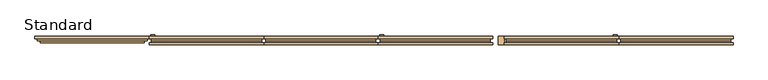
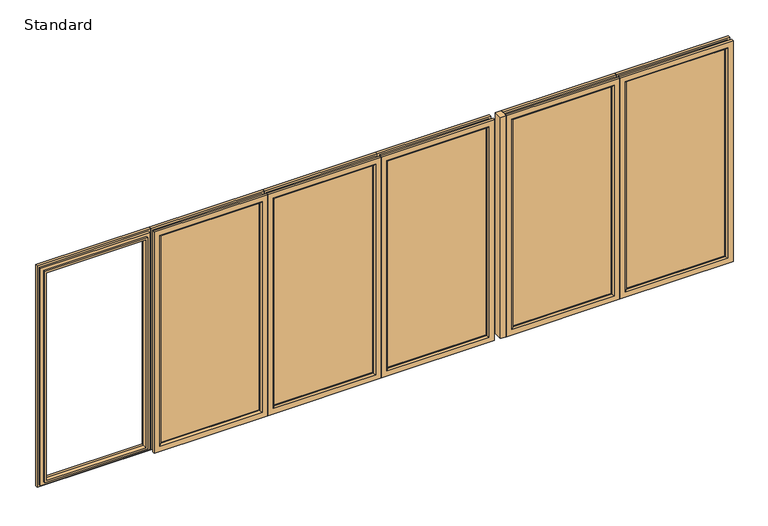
"""IFC4 building model written with IfcOpenShell, lengths in millimetres: door geometry, SMARTS_Visofold1000 : Standard."""

from ifc_helpers import new_model, si_unit, point, frame, frame_2d, origin, origin_with_axes, place, context, project, spatial, polyline, circle_curve, ellipse_curve, trimmed, segment, composite_curve, outline, extrude, faceted_brep, source, transform, mapped, element, save
from ifc_brep_helpers import plane_surface, cylinder_surface, advanced_brep


def standard_0c0f085e(model_context):
    return source(origin(), model_context, "Body", "SolidModel", [
        extrude(outline(composite_curve([segment(polyline([(1228.0996413, 1944.0), (1040.0996413, 1944.0)]), True, "CONTINUOUS"), segment(trimmed(circle_curve(frame_2d((1040.0996413, 1960.0)), 16.0), [point((1040.0996413, 1944.0))], [point((1040.0996413, 1976.0))], False, "CARTESIAN"), True, "CONTINUOUS"), segment(polyline([(1040.0996413, 1976.0), (1228.0996413, 1976.0)]), True, "CONTINUOUS"), segment(trimmed(circle_curve(frame_2d((1228.0996413, 1960.0)), 16.0), [point((1228.0996413, 1976.0))], [point((1228.0996413, 1944.0))], False, "CARTESIAN"), True, "CONTINUOUS")], self_intersect=False)), frame((0.0, 75.0, 0.0), z_axis=(0.0, 1.0, 0.0), x_axis=(0.0, 0.0, 1.0)), (0.0, 0.0, 1.0), 10.0),
        extrude(outline(polyline([(45.0, 1945.0), (1955.0, 1945.0), (1955.0, 1065.0), (45.0, 1065.0), (45.0, 1945.0)]), holes=[polyline([(1939.5, 1929.5), (60.5, 1929.5), (60.5, 1080.5), (1939.5, 1080.5), (1939.5, 1929.5)])]), frame((0.0, 17.4, 0.0), z_axis=(0.0, 1.0, 0.0), x_axis=(0.0, 0.0, 1.0)), (0.0, 0.0, 1.0), 35.0),
        faceted_brep([(1990.0, 74.4, 0.0), (1990.0, 74.4, 2000.0), (1990.0, 52.4, 2000.0), (1990.0, 52.4, 0.0), (1929.5, 52.4, 60.5), (1929.5, 52.4, 1939.5), (1929.5, 74.4, 1939.5), (1929.5, 74.4, 60.5), (1020.0, 74.4, 2000.0), (1020.0, 52.4, 2000.0), (1080.5, 52.4, 1939.5), (1080.5, 74.4, 1939.5), (1020.0, 74.4, 0.0), (1020.0, 52.4, 0.0), (1080.5, 52.4, 60.5), (1080.5, 74.4, 60.5), (1972.1308519, 34.8, 17.8691481), (1972.1308519, 34.8, 1982.1308519), (1037.8691481, 34.8, 1982.1308519), (1037.8691481, 34.8, 17.8691481), (1945.0, 34.8, 1955.0), (1945.0, 34.8, 45.0), (1065.0, 34.8, 45.0), (1065.0, 34.8, 1955.0), (1972.1308519, 52.4, 17.8691481), (1972.1308519, 52.4, 1982.1308519), (1945.0, 52.4, 1955.0), (1945.0, 52.4, 45.0), (1037.8691481, 52.4, 1982.1308519), (1065.0, 52.4, 1955.0), (1037.8691481, 52.4, 17.8691481), (1065.0, 52.4, 45.0)], [[[0, 1, 2, 3]], [[4, 5, 6, 7]], [[1, 8, 9, 2]], [[5, 10, 11, 6]], [[8, 12, 13, 9]], [[10, 14, 15, 11]], [[12, 0, 3, 13]], [[1, 0, 12, 8], [7, 6, 11, 15]], [[14, 4, 7, 15]], [[16, 17, 18, 19], [20, 21, 22, 23]], [[24, 25, 17, 16]], [[21, 20, 26, 27]], [[25, 28, 18, 17]], [[20, 23, 29, 26]], [[28, 30, 19, 18]], [[23, 22, 31, 29]], [[30, 24, 16, 19]], [[3, 2, 9, 13], [25, 24, 30, 28]], [[27, 26, 29, 31], [5, 4, 14, 10]], [[22, 21, 27, 31]]]),
        advanced_brep(
        [(1929.5, 13.3, 60.5), (1929.5, 13.3, 1939.5), (1929.5, 17.4, 1939.5), (1929.5, 17.4, 60.5), (1990.0, 17.4, 0.0), (1990.0, 17.4, 2000.0), (1990.0, 0.0, 2000.0), (1990.0, 0.0, 0.0), (1080.5, 13.3, 1939.5), (1080.5, 17.4, 1939.5), (1020.0, 17.4, 2000.0), (1020.0, 0.0, 2000.0), (1080.5, 13.3, 60.5), (1080.5, 17.4, 60.5), (1020.0, 17.4, 0.0), (1020.0, 0.0, 0.0), (1942.8, 0.0, 1952.8), (1942.8, 0.0, 47.2), (1067.2, 0.0, 47.2), (1067.2, 0.0, 1952.8), (1972.1308519, 34.8, 17.8691481), (1972.1308519, 34.8, 1982.1308519), (1972.1308519, 17.4, 1982.1308519), (1972.1308519, 17.4, 17.8691481), (1037.8691481, 34.8, 1982.1308519), (1037.8691481, 17.4, 1982.1308519), (1037.8691481, 34.8, 17.8691481), (1037.8691481, 17.4, 17.8691481), (1945.0, 17.4, 45.0), (1945.0, 17.4, 1955.0), (1945.0, 34.8, 1955.0), (1945.0, 34.8, 45.0), (1065.0, 17.4, 1955.0), (1065.0, 34.8, 1955.0), (1065.0, 17.4, 45.0), (1065.0, 34.8, 45.0)],
        [
            (0, 1),
            (1, 2),
            (2, 3),
            (3, 0),
            (4, 5),
            (5, 6),
            (6, 7),
            (7, 4),
            (1, 8),
            (8, 9),
            (9, 2),
            (5, 10),
            (10, 11),
            (11, 6),
            (8, 12),
            (12, 13),
            (13, 9),
            (10, 14),
            (14, 15),
            (15, 11),
            (12, 0),
            (3, 13),
            (15, 7),
            (16, 17),
            (17, 18),
            (18, 19),
            (19, 16),
            (14, 4),
            (16, 1, ellipse_curve(frame((1942.8, 13.3, 1952.8), z_axis=(0.7071067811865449, 0.0, -0.70710678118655), x_axis=(-0.7071067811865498, 0.0, -0.7071067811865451)), 18.8090404, 13.3)),
            (0, 17, ellipse_curve(frame((1942.8, 13.3, 47.2), z_axis=(0.70710678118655, 0.0, 0.7071067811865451), x_axis=(0.7071067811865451, 0.0, -0.7071067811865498)), 18.8090404, 13.3)),
            (19, 8, ellipse_curve(frame((1067.2, 13.3, 1952.8), z_axis=(0.7071067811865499, 0.0, 0.707106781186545), x_axis=(0.7071067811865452, 0.0, -0.7071067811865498)), 18.8090404, 13.3)),
            (18, 12, ellipse_curve(frame((1067.2, 13.3, 47.2), z_axis=(-0.7071067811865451, 0.0, 0.7071067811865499), x_axis=(0.7071067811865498, 0.0, 0.7071067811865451)), 18.8090404, 13.3)),
            (20, 21),
            (21, 22),
            (22, 23),
            (23, 20),
            (21, 24),
            (24, 25),
            (25, 22),
            (24, 26),
            (26, 27),
            (27, 25),
            (27, 23),
            (26, 20),
            (28, 29),
            (29, 30),
            (30, 31),
            (31, 28),
            (29, 32),
            (32, 33),
            (33, 30),
            (32, 34),
            (34, 35),
            (35, 33),
            (34, 28),
            (31, 35),
        ],
        [
            plane_surface(frame((1929.5, 17.4, 60.5), z_axis=(-1.0, 0.0, 0.0), x_axis=(0.0, 0.0, 1.0))),
            plane_surface(frame((1990.0, 0.0, 0.0), z_axis=(1.0, 0.0, 0.0), x_axis=(0.0, 0.0, 1.0))),
            plane_surface(frame((1929.5, 17.4, 1939.5), z_axis=(0.0, 0.0, -1.0), x_axis=(-1.0, 0.0, 0.0))),
            plane_surface(frame((1990.0, 0.0, 2000.0), z_axis=(0.0, 0.0, 1.0), x_axis=(-1.0, 0.0, 0.0))),
            plane_surface(frame((1080.5, 17.4, 1939.5), z_axis=(1.0, 0.0, 0.0), x_axis=(0.0, 0.0, -1.0))),
            plane_surface(frame((1020.0, 0.0, 2000.0), z_axis=(-1.0, 0.0, 0.0), x_axis=(0.0, 0.0, -1.0))),
            plane_surface(frame((1080.5, 17.4, 60.5), z_axis=(0.0, 0.0, 1.0), x_axis=(1.0, 0.0, 0.0))),
            plane_surface(frame((1067.2, 0.0, 47.2), z_axis=(0.0, -1.0, 0.0), x_axis=(1.0, 0.0, 0.0))),
            plane_surface(frame((1020.0, 0.0, 0.0), z_axis=(0.0, 0.0, -1.0), x_axis=(1.0, 0.0, 0.0))),
            cylinder_surface(frame((1942.8, 13.3, 0.0), z_axis=(0.0, 0.0, -1.0), x_axis=(0.0, 1.0, 0.0)), 13.3),
            cylinder_surface(frame((1990.0, 13.3, 1952.8), z_axis=(1.0, 0.0, 0.0), x_axis=(0.0, 1.0, 0.0)), 13.3),
            cylinder_surface(frame((1067.2, 13.3, 2000.0), z_axis=(0.0, 0.0, 1.0), x_axis=(0.0, 1.0, 0.0)), 13.3),
            cylinder_surface(frame((1020.0, 13.3, 47.2), z_axis=(-1.0, 0.0, 0.0), x_axis=(0.0, 1.0, 0.0)), 13.3),
            plane_surface(frame((1972.1308519, 17.4, 17.8691481), z_axis=(1.0, 0.0, 0.0), x_axis=(0.0, 0.0, 1.0))),
            plane_surface(frame((1972.1308519, 17.4, 1982.1308519), z_axis=(0.0, 0.0, 1.0), x_axis=(-1.0, 0.0, 0.0))),
            plane_surface(frame((1037.8691481, 17.4, 1982.1308519), z_axis=(-1.0, 0.0, 0.0), x_axis=(0.0, 0.0, -1.0))),
            plane_surface(frame((1020.0, 17.4, 0.0), z_axis=(0.0, 1.0, 0.0), x_axis=(1.0, 0.0, 0.0))),
            plane_surface(frame((1037.8691481, 17.4, 17.8691481), z_axis=(0.0, 0.0, -1.0), x_axis=(1.0, 0.0, 0.0))),
            plane_surface(frame((1945.0, 34.8, 45.0), z_axis=(-1.0, 0.0, 0.0), x_axis=(0.0, 0.0, 1.0))),
            plane_surface(frame((1945.0, 34.8, 1955.0), z_axis=(0.0, 0.0, -1.0), x_axis=(-1.0, 0.0, 0.0))),
            plane_surface(frame((1065.0, 34.8, 1955.0), z_axis=(1.0, 0.0, 0.0), x_axis=(0.0, 0.0, -1.0))),
            plane_surface(frame((1065.0, 34.8, 45.0), z_axis=(0.0, 0.0, 1.0), x_axis=(1.0, 0.0, 0.0))),
            plane_surface(frame((1065.0, 17.4, 45.0), z_axis=(0.0, 1.0, 0.0), x_axis=(1.0, 0.0, 0.0))),
            plane_surface(frame((1037.8691481, 34.8, 17.8691481), z_axis=(0.0, 1.0, 0.0), x_axis=(1.0, 0.0, 0.0))),
        ],
        [
            (0, [[1, 2, 3, 4]]),
            (1, [[5, 6, 7, 8]]),
            (2, [[9, 10, 11, -2]]),
            (3, [[12, 13, 14, -6]]),
            (4, [[15, 16, 17, -10]]),
            (5, [[18, 19, 20, -13]]),
            (6, [[21, -4, 22, -16]]),
            (7, [[-7, -14, -20, 23], [24, 25, 26, 27]]),
            (8, [[28, -8, -23, -19]]),
            (9, [[-24, 29, -1, 30]]),
            (10, [[-27, 31, -9, -29]]),
            (11, [[-26, 32, -15, -31]]),
            (12, [[-25, -30, -21, -32]]),
            (13, [[33, 34, 35, 36]]),
            (14, [[37, 38, 39, -34]]),
            (15, [[40, 41, 42, -38]]),
            (16, [[-5, -28, -18, -12], [-35, -39, -42, 43]]),
            (17, [[44, -36, -43, -41]]),
            (18, [[45, 46, 47, 48]]),
            (19, [[49, 50, 51, -46]]),
            (20, [[52, 53, 54, -50]]),
            (21, [[55, -48, 56, -53]]),
            (22, [[-45, -55, -52, -49], [-3, -11, -17, -22]]),
            (23, [[-33, -44, -40, -37], [-47, -51, -54, -56]]),
        ],
    ),
        extrude(outline(polyline([(1929.5, 50.1484783), (1929.5, 21.4), (1080.5, 21.4), (1080.5, 50.1484783), (1929.5, 50.1484783)])), frame((0.0, 0.0, 60.5), z_axis=(0.0, 0.0, 1.0), x_axis=(1.0, 0.0, 0.0)), (0.0, 0.0, 1.0), 1879.0),
        extrude(outline(polyline([(45.0, 2035.0), (45.0, 2915.0), (1955.0, 2915.0), (1955.0, 2035.0), (45.0, 2035.0)]), holes=[polyline([(1939.5, 2050.5), (1939.5, 2899.5), (60.5, 2899.5), (60.5, 2050.5), (1939.5, 2050.5)])]), frame((0.0, 17.4, 0.0), z_axis=(0.0, 1.0, 0.0), x_axis=(0.0, 0.0, 1.0)), (0.0, 0.0, 1.0), 35.0),
        faceted_brep([(1990.0, 74.4, 0.0), (1990.0, 52.4, 0.0), (1990.0, 52.4, 2000.0), (1990.0, 74.4, 2000.0), (2050.5, 52.4, 60.5), (2050.5, 74.4, 60.5), (2050.5, 74.4, 1939.5), (2050.5, 52.4, 1939.5), (2960.0, 74.4, 0.0), (2960.0, 52.4, 0.0), (2960.0, 52.4, 2000.0), (2960.0, 74.4, 2000.0), (2899.5, 74.4, 1939.5), (2899.5, 52.4, 1939.5), (2899.5, 74.4, 60.5), (2899.5, 52.4, 60.5), (2007.8691481, 34.8, 17.8691481), (2942.1308519, 34.8, 17.8691481), (2942.1308519, 34.8, 1982.1308519), (2007.8691481, 34.8, 1982.1308519), (2035.0, 34.8, 1955.0), (2915.0, 34.8, 1955.0), (2915.0, 34.8, 45.0), (2035.0, 34.8, 45.0), (2007.8691481, 52.4, 17.8691481), (2007.8691481, 52.4, 1982.1308519), (2035.0, 52.4, 45.0), (2035.0, 52.4, 1955.0), (2942.1308519, 52.4, 1982.1308519), (2915.0, 52.4, 1955.0), (2942.1308519, 52.4, 17.8691481), (2915.0, 52.4, 45.0)], [[[0, 1, 2, 3]], [[4, 5, 6, 7]], [[8, 9, 1, 0]], [[3, 2, 10, 11]], [[7, 6, 12, 13]], [[11, 10, 9, 8]], [[13, 12, 14, 15]], [[3, 11, 8, 0], [5, 14, 12, 6]], [[15, 14, 5, 4]], [[16, 17, 18, 19], [20, 21, 22, 23]], [[24, 16, 19, 25]], [[23, 26, 27, 20]], [[25, 19, 18, 28]], [[20, 27, 29, 21]], [[28, 18, 17, 30]], [[21, 29, 31, 22]], [[30, 17, 16, 24]], [[1, 9, 10, 2], [25, 28, 30, 24]], [[26, 31, 29, 27], [7, 13, 15, 4]], [[22, 31, 26, 23]]]),
        advanced_brep(
        [(2050.5, 13.3, 60.5), (2050.5, 17.4, 60.5), (2050.5, 17.4, 1939.5), (2050.5, 13.3, 1939.5), (1990.0, 17.4, 0.0), (1990.0, 0.0, 0.0), (1990.0, 0.0, 2000.0), (1990.0, 17.4, 2000.0), (2899.5, 17.4, 1939.5), (2899.5, 13.3, 1939.5), (2960.0, 0.0, 2000.0), (2960.0, 17.4, 2000.0), (2899.5, 17.4, 60.5), (2899.5, 13.3, 60.5), (2960.0, 0.0, 0.0), (2960.0, 17.4, 0.0), (2037.2, 0.0, 1952.8), (2912.8, 0.0, 1952.8), (2912.8, 0.0, 47.2), (2037.2, 0.0, 47.2), (2007.8691481, 34.8, 17.8691481), (2007.8691481, 17.4, 17.8691481), (2007.8691481, 17.4, 1982.1308519), (2007.8691481, 34.8, 1982.1308519), (2942.1308519, 17.4, 1982.1308519), (2942.1308519, 34.8, 1982.1308519), (2942.1308519, 17.4, 17.8691481), (2942.1308519, 34.8, 17.8691481), (2035.0, 17.4, 45.0), (2035.0, 34.8, 45.0), (2035.0, 34.8, 1955.0), (2035.0, 17.4, 1955.0), (2915.0, 34.8, 1955.0), (2915.0, 17.4, 1955.0), (2915.0, 34.8, 45.0), (2915.0, 17.4, 45.0)],
        [
            (0, 1),
            (1, 2),
            (2, 3),
            (3, 0),
            (4, 5),
            (5, 6),
            (6, 7),
            (7, 4),
            (2, 8),
            (8, 9),
            (9, 3),
            (6, 10),
            (10, 11),
            (11, 7),
            (8, 12),
            (12, 13),
            (13, 9),
            (10, 14),
            (14, 15),
            (15, 11),
            (12, 1),
            (0, 13),
            (5, 14),
            (16, 17),
            (17, 18),
            (18, 19),
            (19, 16),
            (4, 15),
            (19, 0, ellipse_curve(frame((2037.2, 13.3, 47.2), z_axis=(-0.70710678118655, 0.0, 0.7071067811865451), x_axis=(-0.7071067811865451, 0.0, -0.7071067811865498)), 18.8090404, 13.3)),
            (3, 16, ellipse_curve(frame((2037.2, 13.3, 1952.8), z_axis=(-0.7071067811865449, 0.0, -0.70710678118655), x_axis=(0.7071067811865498, 0.0, -0.7071067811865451)), 18.8090404, 13.3)),
            (9, 17, ellipse_curve(frame((2912.8, 13.3, 1952.8), z_axis=(-0.7071067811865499, 0.0, 0.707106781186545), x_axis=(-0.7071067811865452, 0.0, -0.7071067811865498)), 18.8090404, 13.3)),
            (13, 18, ellipse_curve(frame((2912.8, 13.3, 47.2), z_axis=(0.7071067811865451, 0.0, 0.7071067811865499), x_axis=(-0.7071067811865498, 0.0, 0.7071067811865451)), 18.8090404, 13.3)),
            (20, 21),
            (21, 22),
            (22, 23),
            (23, 20),
            (22, 24),
            (24, 25),
            (25, 23),
            (24, 26),
            (26, 27),
            (27, 25),
            (21, 26),
            (20, 27),
            (28, 29),
            (29, 30),
            (30, 31),
            (31, 28),
            (30, 32),
            (32, 33),
            (33, 31),
            (32, 34),
            (34, 35),
            (35, 33),
            (34, 29),
            (28, 35),
        ],
        [
            plane_surface(frame((2050.5, 17.4, 60.5), z_axis=(1.0, 0.0, 0.0), x_axis=(0.0, 0.0, 1.0))),
            plane_surface(frame((1990.0, 0.0, 0.0), z_axis=(-1.0, 0.0, 0.0), x_axis=(0.0, 0.0, 1.0))),
            plane_surface(frame((2050.5, 17.4, 1939.5), z_axis=(0.0, 0.0, -1.0), x_axis=(1.0, 0.0, 0.0))),
            plane_surface(frame((1990.0, 0.0, 2000.0), z_axis=(0.0, 0.0, 1.0), x_axis=(1.0, 0.0, 0.0))),
            plane_surface(frame((2899.5, 17.4, 1939.5), z_axis=(-1.0, 0.0, 0.0), x_axis=(0.0, 0.0, -1.0))),
            plane_surface(frame((2960.0, 0.0, 2000.0), z_axis=(1.0, 0.0, 0.0), x_axis=(0.0, 0.0, -1.0))),
            plane_surface(frame((2899.5, 17.4, 60.5), z_axis=(0.0, 0.0, 1.0), x_axis=(-1.0, 0.0, 0.0))),
            plane_surface(frame((2912.8, 0.0, 47.2), z_axis=(0.0, -1.0, 0.0), x_axis=(-1.0, 0.0, 0.0))),
            plane_surface(frame((2960.0, 0.0, 0.0), z_axis=(0.0, 0.0, -1.0), x_axis=(-1.0, 0.0, 0.0))),
            cylinder_surface(frame((2037.2, 13.3, 0.0), z_axis=(0.0, 0.0, -1.0), x_axis=(0.0, 1.0, 0.0)), 13.3),
            cylinder_surface(frame((1990.0, 13.3, 1952.8), z_axis=(-1.0, 0.0, 0.0), x_axis=(0.0, 1.0, 0.0)), 13.3),
            cylinder_surface(frame((2912.8, 13.3, 2000.0), z_axis=(0.0, 0.0, 1.0), x_axis=(0.0, 1.0, 0.0)), 13.3),
            cylinder_surface(frame((2960.0, 13.3, 47.2), z_axis=(1.0, 0.0, 0.0), x_axis=(0.0, 1.0, 0.0)), 13.3),
            plane_surface(frame((2007.8691481, 17.4, 17.8691481), z_axis=(-1.0, 0.0, 0.0), x_axis=(0.0, 0.0, 1.0))),
            plane_surface(frame((2007.8691481, 17.4, 1982.1308519), z_axis=(0.0, 0.0, 1.0), x_axis=(1.0, 0.0, 0.0))),
            plane_surface(frame((2942.1308519, 17.4, 1982.1308519), z_axis=(1.0, 0.0, 0.0), x_axis=(0.0, 0.0, -1.0))),
            plane_surface(frame((2960.0, 17.4, 0.0), z_axis=(0.0, 1.0, 0.0), x_axis=(-1.0, 0.0, 0.0))),
            plane_surface(frame((2942.1308519, 17.4, 17.8691481), z_axis=(0.0, 0.0, -1.0), x_axis=(-1.0, 0.0, 0.0))),
            plane_surface(frame((2035.0, 34.8, 45.0), z_axis=(1.0, 0.0, 0.0), x_axis=(0.0, 0.0, 1.0))),
            plane_surface(frame((2035.0, 34.8, 1955.0), z_axis=(0.0, 0.0, -1.0), x_axis=(1.0, 0.0, 0.0))),
            plane_surface(frame((2915.0, 34.8, 1955.0), z_axis=(-1.0, 0.0, 0.0), x_axis=(0.0, 0.0, -1.0))),
            plane_surface(frame((2915.0, 34.8, 45.0), z_axis=(0.0, 0.0, 1.0), x_axis=(-1.0, 0.0, 0.0))),
            plane_surface(frame((2915.0, 17.4, 45.0), z_axis=(0.0, 1.0, 0.0), x_axis=(-1.0, 0.0, 0.0))),
            plane_surface(frame((2942.1308519, 34.8, 17.8691481), z_axis=(0.0, 1.0, 0.0), x_axis=(-1.0, 0.0, 0.0))),
        ],
        [
            (0, [[1, 2, 3, 4]]),
            (1, [[5, 6, 7, 8]]),
            (2, [[-3, 9, 10, 11]]),
            (3, [[-7, 12, 13, 14]]),
            (4, [[-10, 15, 16, 17]]),
            (5, [[-13, 18, 19, 20]]),
            (6, [[-16, 21, -1, 22]]),
            (7, [[23, -18, -12, -6], [24, 25, 26, 27]]),
            (8, [[-19, -23, -5, 28]]),
            (9, [[29, -4, 30, -27]]),
            (10, [[-30, -11, 31, -24]]),
            (11, [[-31, -17, 32, -25]]),
            (12, [[-32, -22, -29, -26]]),
            (13, [[33, 34, 35, 36]]),
            (14, [[-35, 37, 38, 39]]),
            (15, [[-38, 40, 41, 42]]),
            (16, [[-14, -20, -28, -8], [43, -40, -37, -34]]),
            (17, [[-41, -43, -33, 44]]),
            (18, [[45, 46, 47, 48]]),
            (19, [[-47, 49, 50, 51]]),
            (20, [[-50, 52, 53, 54]]),
            (21, [[-53, 55, -45, 56]]),
            (22, [[-51, -54, -56, -48], [-21, -15, -9, -2]]),
            (23, [[-39, -42, -44, -36], [-55, -52, -49, -46]]),
        ],
    ),
        extrude(outline(polyline([(2050.5, 50.1484783), (2899.5, 50.1484783), (2899.5, 21.4), (2050.5, 21.4), (2050.5, 50.1484783)])), frame((0.0, 0.0, 60.5), z_axis=(0.0, 0.0, 1.0), x_axis=(1.0, 0.0, 0.0)), (0.0, 0.0, 1.0), 1879.0),
        extrude(outline(polyline([(970.0, 0.0), (970.0, 75.1750992), (1020.0, 75.1750992), (1020.0, 0.0), (970.0, 0.0)])), origin_with_axes(), (0.0, 0.0, 1.0), 2000.0),
        extrude(outline(composite_curve([segment(trimmed(circle_curve(frame_2d((1228.0996413, -20.0)), 16.0), [point((1228.0996413, -4.0))], [point((1228.0996413, -36.0))], False, "CARTESIAN"), True, "CONTINUOUS"), segment(polyline([(1228.0996413, -36.0), (1040.0996413, -36.0)]), True, "CONTINUOUS"), segment(trimmed(circle_curve(frame_2d((1040.0996413, -20.0)), 16.0), [point((1040.0996413, -36.0))], [point((1040.0996413, -4.0))], False, "CARTESIAN"), True, "CONTINUOUS"), segment(polyline([(1040.0996413, -4.0), (1228.0996413, -4.0)]), True, "CONTINUOUS")], self_intersect=False)), frame((0.0, 75.0, 0.0), z_axis=(0.0, 1.0, 0.0), x_axis=(0.0, 0.0, 1.0)), (0.0, 0.0, 1.0), 10.0),
        extrude(outline(polyline([(45.0, -5.0), (45.0, 875.0), (1955.0, 875.0), (1955.0, -5.0), (45.0, -5.0)]), holes=[polyline([(1939.5, 10.5), (1939.5, 859.5), (60.5, 859.5), (60.5, 10.5), (1939.5, 10.5)])]), frame((0.0, 17.4, 0.0), z_axis=(0.0, 1.0, 0.0), x_axis=(0.0, 0.0, 1.0)), (0.0, 0.0, 1.0), 35.0),
        faceted_brep([(-50.0, 74.4, 0.0), (-50.0, 52.4, 0.0), (-50.0, 52.4, 2000.0), (-50.0, 74.4, 2000.0), (10.5, 52.4, 60.5), (10.5, 74.4, 60.5), (10.5, 74.4, 1939.5), (10.5, 52.4, 1939.5), (920.0, 52.4, 2000.0), (920.0, 74.4, 2000.0), (859.5, 74.4, 1939.5), (859.5, 52.4, 1939.5), (920.0, 52.4, 0.0), (920.0, 74.4, 0.0), (859.5, 74.4, 60.5), (859.5, 52.4, 60.5), (-32.1308519, 34.8, 17.8691481), (902.1308519, 34.8, 17.8691481), (902.1308519, 34.8, 1982.1308519), (-32.1308519, 34.8, 1982.1308519), (-5.0, 34.8, 1955.0), (875.0, 34.8, 1955.0), (875.0, 34.8, 45.0), (-5.0, 34.8, 45.0), (-32.1308519, 52.4, 17.8691481), (-32.1308519, 52.4, 1982.1308519), (-5.0, 52.4, 45.0), (-5.0, 52.4, 1955.0), (902.1308519, 52.4, 1982.1308519), (875.0, 52.4, 1955.0), (902.1308519, 52.4, 17.8691481), (875.0, 52.4, 45.0)], [[[0, 1, 2, 3]], [[4, 5, 6, 7]], [[3, 2, 8, 9]], [[7, 6, 10, 11]], [[9, 8, 12, 13]], [[11, 10, 14, 15]], [[13, 12, 1, 0]], [[3, 9, 13, 0], [5, 14, 10, 6]], [[15, 14, 5, 4]], [[16, 17, 18, 19], [20, 21, 22, 23]], [[24, 16, 19, 25]], [[23, 26, 27, 20]], [[25, 19, 18, 28]], [[20, 27, 29, 21]], [[28, 18, 17, 30]], [[21, 29, 31, 22]], [[30, 17, 16, 24]], [[1, 12, 8, 2], [25, 28, 30, 24]], [[26, 31, 29, 27], [7, 11, 15, 4]], [[22, 31, 26, 23]]]),
        advanced_brep(
        [(10.5, 13.3, 60.5), (10.5, 17.4, 60.5), (10.5, 17.4, 1939.5), (10.5, 13.3, 1939.5), (-50.0, 17.4, 0.0), (-50.0, 0.0, 0.0), (-50.0, 0.0, 2000.0), (-50.0, 17.4, 2000.0), (859.5, 17.4, 1939.5), (859.5, 13.3, 1939.5), (920.0, 0.0, 2000.0), (920.0, 17.4, 2000.0), (859.5, 17.4, 60.5), (859.5, 13.3, 60.5), (920.0, 0.0, 0.0), (920.0, 17.4, 0.0), (-2.8, 0.0, 1952.8), (872.8, 0.0, 1952.8), (872.8, 0.0, 47.2), (-2.8, 0.0, 47.2), (-32.1308519, 34.8, 17.8691481), (-32.1308519, 17.4, 17.8691481), (-32.1308519, 17.4, 1982.1308519), (-32.1308519, 34.8, 1982.1308519), (902.1308519, 17.4, 1982.1308519), (902.1308519, 34.8, 1982.1308519), (902.1308519, 17.4, 17.8691481), (902.1308519, 34.8, 17.8691481), (-5.0, 17.4, 45.0), (-5.0, 34.8, 45.0), (-5.0, 34.8, 1955.0), (-5.0, 17.4, 1955.0), (875.0, 34.8, 1955.0), (875.0, 17.4, 1955.0), (875.0, 34.8, 45.0), (875.0, 17.4, 45.0)],
        [
            (0, 1),
            (1, 2),
            (2, 3),
            (3, 0),
            (4, 5),
            (5, 6),
            (6, 7),
            (7, 4),
            (2, 8),
            (8, 9),
            (9, 3),
            (6, 10),
            (10, 11),
            (11, 7),
            (8, 12),
            (12, 13),
            (13, 9),
            (10, 14),
            (14, 15),
            (15, 11),
            (12, 1),
            (0, 13),
            (5, 14),
            (16, 17),
            (17, 18),
            (18, 19),
            (19, 16),
            (4, 15),
            (19, 0, ellipse_curve(frame((-2.8, 13.3, 47.2), z_axis=(-0.70710678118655, 0.0, 0.7071067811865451), x_axis=(-0.7071067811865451, 0.0, -0.7071067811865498)), 18.8090404, 13.3)),
            (3, 16, ellipse_curve(frame((-2.8, 13.3, 1952.8), z_axis=(-0.7071067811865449, 0.0, -0.70710678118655), x_axis=(0.7071067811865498, 0.0, -0.7071067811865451)), 18.8090404, 13.3)),
            (9, 17, ellipse_curve(frame((872.8, 13.3, 1952.8), z_axis=(-0.7071067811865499, 0.0, 0.707106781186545), x_axis=(-0.7071067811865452, 0.0, -0.7071067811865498)), 18.8090404, 13.3)),
            (13, 18, ellipse_curve(frame((872.8, 13.3, 47.2), z_axis=(0.7071067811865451, 0.0, 0.7071067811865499), x_axis=(-0.7071067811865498, 0.0, 0.7071067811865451)), 18.8090404, 13.3)),
            (20, 21),
            (21, 22),
            (22, 23),
            (23, 20),
            (22, 24),
            (24, 25),
            (25, 23),
            (24, 26),
            (26, 27),
            (27, 25),
            (21, 26),
            (20, 27),
            (28, 29),
            (29, 30),
            (30, 31),
            (31, 28),
            (30, 32),
            (32, 33),
            (33, 31),
            (32, 34),
            (34, 35),
            (35, 33),
            (34, 29),
            (28, 35),
        ],
        [
            plane_surface(frame((10.5, 17.4, 60.5), z_axis=(1.0, 0.0, 0.0), x_axis=(0.0, 0.0, 1.0))),
            plane_surface(frame((-50.0, 0.0, 0.0), z_axis=(-1.0, 0.0, 0.0), x_axis=(0.0, 0.0, 1.0))),
            plane_surface(frame((10.5, 17.4, 1939.5), z_axis=(0.0, 0.0, -1.0), x_axis=(1.0, 0.0, 0.0))),
            plane_surface(frame((-50.0, 0.0, 2000.0), z_axis=(0.0, 0.0, 1.0), x_axis=(1.0, 0.0, 0.0))),
            plane_surface(frame((859.5, 17.4, 1939.5), z_axis=(-1.0, 0.0, 0.0), x_axis=(0.0, 0.0, -1.0))),
            plane_surface(frame((920.0, 0.0, 2000.0), z_axis=(1.0, 0.0, 0.0), x_axis=(0.0, 0.0, -1.0))),
            plane_surface(frame((859.5, 17.4, 60.5), z_axis=(0.0, 0.0, 1.0), x_axis=(-1.0, 0.0, 0.0))),
            plane_surface(frame((872.8, 0.0, 47.2), z_axis=(0.0, -1.0, 0.0), x_axis=(-1.0, 0.0, 0.0))),
            plane_surface(frame((920.0, 0.0, 0.0), z_axis=(0.0, 0.0, -1.0), x_axis=(-1.0, 0.0, 0.0))),
            cylinder_surface(frame((-2.8, 13.3, 0.0), z_axis=(0.0, 0.0, -1.0), x_axis=(0.0, 1.0, 0.0)), 13.3),
            cylinder_surface(frame((-50.0, 13.3, 1952.8), z_axis=(-1.0, 0.0, 0.0), x_axis=(0.0, 1.0, 0.0)), 13.3),
            cylinder_surface(frame((872.8, 13.3, 2000.0), z_axis=(0.0, 0.0, 1.0), x_axis=(0.0, 1.0, 0.0)), 13.3),
            cylinder_surface(frame((920.0, 13.3, 47.2), z_axis=(1.0, 0.0, 0.0), x_axis=(0.0, 1.0, 0.0)), 13.3),
            plane_surface(frame((-32.1308519, 17.4, 17.8691481), z_axis=(-1.0, 0.0, 0.0), x_axis=(0.0, 0.0, 1.0))),
            plane_surface(frame((-32.1308519, 17.4, 1982.1308519), z_axis=(0.0, 0.0, 1.0), x_axis=(1.0, 0.0, 0.0))),
            plane_surface(frame((902.1308519, 17.4, 1982.1308519), z_axis=(1.0, 0.0, 0.0), x_axis=(0.0, 0.0, -1.0))),
            plane_surface(frame((920.0, 17.4, 0.0), z_axis=(0.0, 1.0, 0.0), x_axis=(-1.0, 0.0, 0.0))),
            plane_surface(frame((902.1308519, 17.4, 17.8691481), z_axis=(0.0, 0.0, -1.0), x_axis=(-1.0, 0.0, 0.0))),
            plane_surface(frame((-5.0, 34.8, 45.0), z_axis=(1.0, 0.0, 0.0), x_axis=(0.0, 0.0, 1.0))),
            plane_surface(frame((-5.0, 34.8, 1955.0), z_axis=(0.0, 0.0, -1.0), x_axis=(1.0, 0.0, 0.0))),
            plane_surface(frame((875.0, 34.8, 1955.0), z_axis=(-1.0, 0.0, 0.0), x_axis=(0.0, 0.0, -1.0))),
            plane_surface(frame((875.0, 34.8, 45.0), z_axis=(0.0, 0.0, 1.0), x_axis=(-1.0, 0.0, 0.0))),
            plane_surface(frame((875.0, 17.4, 45.0), z_axis=(0.0, 1.0, 0.0), x_axis=(-1.0, 0.0, 0.0))),
            plane_surface(frame((902.1308519, 34.8, 17.8691481), z_axis=(0.0, 1.0, 0.0), x_axis=(-1.0, 0.0, 0.0))),
        ],
        [
            (0, [[1, 2, 3, 4]]),
            (1, [[5, 6, 7, 8]]),
            (2, [[-3, 9, 10, 11]]),
            (3, [[-7, 12, 13, 14]]),
            (4, [[-10, 15, 16, 17]]),
            (5, [[-13, 18, 19, 20]]),
            (6, [[-16, 21, -1, 22]]),
            (7, [[23, -18, -12, -6], [24, 25, 26, 27]]),
            (8, [[-19, -23, -5, 28]]),
            (9, [[29, -4, 30, -27]]),
            (10, [[-30, -11, 31, -24]]),
            (11, [[-31, -17, 32, -25]]),
            (12, [[-32, -22, -29, -26]]),
            (13, [[33, 34, 35, 36]]),
            (14, [[-35, 37, 38, 39]]),
            (15, [[-38, 40, 41, 42]]),
            (16, [[-14, -20, -28, -8], [43, -40, -37, -34]]),
            (17, [[-41, -43, -33, 44]]),
            (18, [[45, 46, 47, 48]]),
            (19, [[-47, 49, 50, 51]]),
            (20, [[-50, 52, 53, 54]]),
            (21, [[-53, 55, -45, 56]]),
            (22, [[-51, -54, -56, -48], [-21, -15, -9, -2]]),
            (23, [[-39, -42, -44, -36], [-55, -52, -49, -46]]),
        ],
    ),
        extrude(outline(polyline([(10.5, 50.1484783), (859.5, 50.1484783), (859.5, 21.4), (10.5, 21.4), (10.5, 50.1484783)])), frame((0.0, 0.0, 60.5), z_axis=(0.0, 0.0, 1.0), x_axis=(1.0, 0.0, 0.0)), (0.0, 0.0, 1.0), 1879.0),
        extrude(outline(composite_curve([segment(trimmed(circle_curve(frame_2d((1228.0996413, -1960.0)), 16.0), [point((1228.0996413, -1944.0))], [point((1228.0996413, -1976.0))], False, "CARTESIAN"), True, "CONTINUOUS"), segment(polyline([(1228.0996413, -1976.0), (1040.0996413, -1976.0)]), True, "CONTINUOUS"), segment(trimmed(circle_curve(frame_2d((1040.0996413, -1960.0)), 16.0), [point((1040.0996413, -1976.0))], [point((1040.0996413, -1944.0))], False, "CARTESIAN"), True, "CONTINUOUS"), segment(polyline([(1040.0996413, -1944.0), (1228.0996413, -1944.0)]), True, "CONTINUOUS")], self_intersect=False)), frame((0.0, 75.0, 0.0), z_axis=(0.0, 1.0, 0.0), x_axis=(0.0, 0.0, 1.0)), (0.0, 0.0, 1.0), 10.0),
        extrude(outline(polyline([(45.0, -1945.0), (45.0, -1065.0), (1955.0, -1065.0), (1955.0, -1945.0), (45.0, -1945.0)]), holes=[polyline([(1939.5, -1929.5), (1939.5, -1080.5), (60.5, -1080.5), (60.5, -1929.5), (1939.5, -1929.5)])]), frame((0.0, 17.4, 0.0), z_axis=(0.0, 1.0, 0.0), x_axis=(0.0, 0.0, 1.0)), (0.0, 0.0, 1.0), 35.0),
        faceted_brep([(-1990.0, 74.4, 0.0), (-1990.0, 52.4, 0.0), (-1990.0, 52.4, 2000.0), (-1990.0, 74.4, 2000.0), (-1929.5, 52.4, 60.5), (-1929.5, 74.4, 60.5), (-1929.5, 74.4, 1939.5), (-1929.5, 52.4, 1939.5), (-1020.0, 52.4, 2000.0), (-1020.0, 74.4, 2000.0), (-1080.5, 74.4, 1939.5), (-1080.5, 52.4, 1939.5), (-1020.0, 52.4, 0.0), (-1020.0, 74.4, 0.0), (-1080.5, 74.4, 60.5), (-1080.5, 52.4, 60.5), (-1972.1308519, 34.8, 17.8691481), (-1037.8691481, 34.8, 17.8691481), (-1037.8691481, 34.8, 1982.1308519), (-1972.1308519, 34.8, 1982.1308519), (-1945.0, 34.8, 1955.0), (-1065.0, 34.8, 1955.0), (-1065.0, 34.8, 45.0), (-1945.0, 34.8, 45.0), (-1972.1308519, 52.4, 17.8691481), (-1972.1308519, 52.4, 1982.1308519), (-1945.0, 52.4, 45.0), (-1945.0, 52.4, 1955.0), (-1037.8691481, 52.4, 1982.1308519), (-1065.0, 52.4, 1955.0), (-1037.8691481, 52.4, 17.8691481), (-1065.0, 52.4, 45.0)], [[[0, 1, 2, 3]], [[4, 5, 6, 7]], [[3, 2, 8, 9]], [[7, 6, 10, 11]], [[9, 8, 12, 13]], [[11, 10, 14, 15]], [[13, 12, 1, 0]], [[3, 9, 13, 0], [5, 14, 10, 6]], [[15, 14, 5, 4]], [[16, 17, 18, 19], [20, 21, 22, 23]], [[24, 16, 19, 25]], [[23, 26, 27, 20]], [[25, 19, 18, 28]], [[20, 27, 29, 21]], [[28, 18, 17, 30]], [[21, 29, 31, 22]], [[30, 17, 16, 24]], [[1, 12, 8, 2], [25, 28, 30, 24]], [[26, 31, 29, 27], [7, 11, 15, 4]], [[22, 31, 26, 23]]]),
        advanced_brep(
        [(-1929.5, 13.3, 60.5), (-1929.5, 17.4, 60.5), (-1929.5, 17.4, 1939.5), (-1929.5, 13.3, 1939.5), (-1990.0, 17.4, 0.0), (-1990.0, 0.0, 0.0), (-1990.0, 0.0, 2000.0), (-1990.0, 17.4, 2000.0), (-1080.5, 17.4, 1939.5), (-1080.5, 13.3, 1939.5), (-1020.0, 0.0, 2000.0), (-1020.0, 17.4, 2000.0), (-1080.5, 17.4, 60.5), (-1080.5, 13.3, 60.5), (-1020.0, 0.0, 0.0), (-1020.0, 17.4, 0.0), (-1942.8, 0.0, 1952.8), (-1067.2, 0.0, 1952.8), (-1067.2, 0.0, 47.2), (-1942.8, 0.0, 47.2), (-1972.1308519, 34.8, 17.8691481), (-1972.1308519, 17.4, 17.8691481), (-1972.1308519, 17.4, 1982.1308519), (-1972.1308519, 34.8, 1982.1308519), (-1037.8691481, 17.4, 1982.1308519), (-1037.8691481, 34.8, 1982.1308519), (-1037.8691481, 17.4, 17.8691481), (-1037.8691481, 34.8, 17.8691481), (-1945.0, 17.4, 45.0), (-1945.0, 34.8, 45.0), (-1945.0, 34.8, 1955.0), (-1945.0, 17.4, 1955.0), (-1065.0, 34.8, 1955.0), (-1065.0, 17.4, 1955.0), (-1065.0, 34.8, 45.0), (-1065.0, 17.4, 45.0)],
        [
            (0, 1),
            (1, 2),
            (2, 3),
            (3, 0),
            (4, 5),
            (5, 6),
            (6, 7),
            (7, 4),
            (2, 8),
            (8, 9),
            (9, 3),
            (6, 10),
            (10, 11),
            (11, 7),
            (8, 12),
            (12, 13),
            (13, 9),
            (10, 14),
            (14, 15),
            (15, 11),
            (12, 1),
            (0, 13),
            (5, 14),
            (16, 17),
            (17, 18),
            (18, 19),
            (19, 16),
            (4, 15),
            (19, 0, ellipse_curve(frame((-1942.8, 13.3, 47.2), z_axis=(-0.70710678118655, 0.0, 0.7071067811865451), x_axis=(-0.7071067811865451, 0.0, -0.7071067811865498)), 18.8090404, 13.3)),
            (3, 16, ellipse_curve(frame((-1942.8, 13.3, 1952.8), z_axis=(-0.7071067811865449, 0.0, -0.70710678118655), x_axis=(0.7071067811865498, 0.0, -0.7071067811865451)), 18.8090404, 13.3)),
            (9, 17, ellipse_curve(frame((-1067.2, 13.3, 1952.8), z_axis=(-0.7071067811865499, 0.0, 0.707106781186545), x_axis=(-0.7071067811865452, 0.0, -0.7071067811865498)), 18.8090404, 13.3)),
            (13, 18, ellipse_curve(frame((-1067.2, 13.3, 47.2), z_axis=(0.7071067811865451, 0.0, 0.7071067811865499), x_axis=(-0.7071067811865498, 0.0, 0.7071067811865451)), 18.8090404, 13.3)),
            (20, 21),
            (21, 22),
            (22, 23),
            (23, 20),
            (22, 24),
            (24, 25),
            (25, 23),
            (24, 26),
            (26, 27),
            (27, 25),
            (21, 26),
            (20, 27),
            (28, 29),
            (29, 30),
            (30, 31),
            (31, 28),
            (30, 32),
            (32, 33),
            (33, 31),
            (32, 34),
            (34, 35),
            (35, 33),
            (34, 29),
            (28, 35),
        ],
        [
            plane_surface(frame((-1929.5, 17.4, 60.5), z_axis=(1.0, 0.0, 0.0), x_axis=(0.0, 0.0, 1.0))),
            plane_surface(frame((-1990.0, 0.0, 0.0), z_axis=(-1.0, 0.0, 0.0), x_axis=(0.0, 0.0, 1.0))),
            plane_surface(frame((-1929.5, 17.4, 1939.5), z_axis=(0.0, 0.0, -1.0), x_axis=(1.0, 0.0, 0.0))),
            plane_surface(frame((-1990.0, 0.0, 2000.0), z_axis=(0.0, 0.0, 1.0), x_axis=(1.0, 0.0, 0.0))),
            plane_surface(frame((-1080.5, 17.4, 1939.5), z_axis=(-1.0, 0.0, 0.0), x_axis=(0.0, 0.0, -1.0))),
            plane_surface(frame((-1020.0, 0.0, 2000.0), z_axis=(1.0, 0.0, 0.0), x_axis=(0.0, 0.0, -1.0))),
            plane_surface(frame((-1080.5, 17.4, 60.5), z_axis=(0.0, 0.0, 1.0), x_axis=(-1.0, 0.0, 0.0))),
            plane_surface(frame((-1067.2, 0.0, 47.2), z_axis=(0.0, -1.0, 0.0), x_axis=(-1.0, 0.0, 0.0))),
            plane_surface(frame((-1020.0, 0.0, 0.0), z_axis=(0.0, 0.0, -1.0), x_axis=(-1.0, 0.0, 0.0))),
            cylinder_surface(frame((-1942.8, 13.3, 0.0), z_axis=(0.0, 0.0, -1.0), x_axis=(0.0, 1.0, 0.0)), 13.3),
            cylinder_surface(frame((-1990.0, 13.3, 1952.8), z_axis=(-1.0, 0.0, 0.0), x_axis=(0.0, 1.0, 0.0)), 13.3),
            cylinder_surface(frame((-1067.2, 13.3, 2000.0), z_axis=(0.0, 0.0, 1.0), x_axis=(0.0, 1.0, 0.0)), 13.3),
            cylinder_surface(frame((-1020.0, 13.3, 47.2), z_axis=(1.0, 0.0, 0.0), x_axis=(0.0, 1.0, 0.0)), 13.3),
            plane_surface(frame((-1972.1308519, 17.4, 17.8691481), z_axis=(-1.0, 0.0, 0.0), x_axis=(0.0, 0.0, 1.0))),
            plane_surface(frame((-1972.1308519, 17.4, 1982.1308519), z_axis=(0.0, 0.0, 1.0), x_axis=(1.0, 0.0, 0.0))),
            plane_surface(frame((-1037.8691481, 17.4, 1982.1308519), z_axis=(1.0, 0.0, 0.0), x_axis=(0.0, 0.0, -1.0))),
            plane_surface(frame((-1020.0, 17.4, 0.0), z_axis=(0.0, 1.0, 0.0), x_axis=(-1.0, 0.0, 0.0))),
            plane_surface(frame((-1037.8691481, 17.4, 17.8691481), z_axis=(0.0, 0.0, -1.0), x_axis=(-1.0, 0.0, 0.0))),
            plane_surface(frame((-1945.0, 34.8, 45.0), z_axis=(1.0, 0.0, 0.0), x_axis=(0.0, 0.0, 1.0))),
            plane_surface(frame((-1945.0, 34.8, 1955.0), z_axis=(0.0, 0.0, -1.0), x_axis=(1.0, 0.0, 0.0))),
            plane_surface(frame((-1065.0, 34.8, 1955.0), z_axis=(-1.0, 0.0, 0.0), x_axis=(0.0, 0.0, -1.0))),
            plane_surface(frame((-1065.0, 34.8, 45.0), z_axis=(0.0, 0.0, 1.0), x_axis=(-1.0, 0.0, 0.0))),
            plane_surface(frame((-1065.0, 17.4, 45.0), z_axis=(0.0, 1.0, 0.0), x_axis=(-1.0, 0.0, 0.0))),
            plane_surface(frame((-1037.8691481, 34.8, 17.8691481), z_axis=(0.0, 1.0, 0.0), x_axis=(-1.0, 0.0, 0.0))),
        ],
        [
            (0, [[1, 2, 3, 4]]),
            (1, [[5, 6, 7, 8]]),
            (2, [[-3, 9, 10, 11]]),
            (3, [[-7, 12, 13, 14]]),
            (4, [[-10, 15, 16, 17]]),
            (5, [[-13, 18, 19, 20]]),
            (6, [[-16, 21, -1, 22]]),
            (7, [[23, -18, -12, -6], [24, 25, 26, 27]]),
            (8, [[-19, -23, -5, 28]]),
            (9, [[29, -4, 30, -27]]),
            (10, [[-30, -11, 31, -24]]),
            (11, [[-31, -17, 32, -25]]),
            (12, [[-32, -22, -29, -26]]),
            (13, [[33, 34, 35, 36]]),
            (14, [[-35, 37, 38, 39]]),
            (15, [[-38, 40, 41, 42]]),
            (16, [[-14, -20, -28, -8], [43, -40, -37, -34]]),
            (17, [[-41, -43, -33, 44]]),
            (18, [[45, 46, 47, 48]]),
            (19, [[-47, 49, 50, 51]]),
            (20, [[-50, 52, 53, 54]]),
            (21, [[-53, 55, -45, 56]]),
            (22, [[-51, -54, -56, -48], [-21, -15, -9, -2]]),
            (23, [[-39, -42, -44, -36], [-55, -52, -49, -46]]),
        ],
    ),
        extrude(outline(polyline([(-1929.5, 50.1484783), (-1080.5, 50.1484783), (-1080.5, 21.4), (-1929.5, 21.4), (-1929.5, 50.1484783)])), frame((0.0, 0.0, 60.5), z_axis=(0.0, 0.0, 1.0), x_axis=(1.0, 0.0, 0.0)), (0.0, 0.0, 1.0), 1879.0),
        extrude(outline(polyline([(45.0, -95.0), (1955.0, -95.0), (1955.0, -975.0), (45.0, -975.0), (45.0, -95.0)]), holes=[polyline([(1939.5, -110.5), (60.5, -110.5), (60.5, -959.5), (1939.5, -959.5), (1939.5, -110.5)])]), frame((0.0, 17.4, 0.0), z_axis=(0.0, 1.0, 0.0), x_axis=(0.0, 0.0, 1.0)), (0.0, 0.0, 1.0), 35.0),
        faceted_brep([(-50.0, 74.4, 0.0), (-50.0, 74.4, 2000.0), (-50.0, 52.4, 2000.0), (-50.0, 52.4, 0.0), (-110.5, 52.4, 60.5), (-110.5, 52.4, 1939.5), (-110.5, 74.4, 1939.5), (-110.5, 74.4, 60.5), (-1020.0, 74.4, 2000.0), (-1020.0, 52.4, 2000.0), (-959.5, 52.4, 1939.5), (-959.5, 74.4, 1939.5), (-1020.0, 74.4, 0.0), (-1020.0, 52.4, 0.0), (-959.5, 52.4, 60.5), (-959.5, 74.4, 60.5), (-67.8691481, 34.8, 17.8691481), (-67.8691481, 34.8, 1982.1308519), (-1002.1308519, 34.8, 1982.1308519), (-1002.1308519, 34.8, 17.8691481), (-95.0, 34.8, 1955.0), (-95.0, 34.8, 45.0), (-975.0, 34.8, 45.0), (-975.0, 34.8, 1955.0), (-67.8691481, 52.4, 17.8691481), (-67.8691481, 52.4, 1982.1308519), (-95.0, 52.4, 1955.0), (-95.0, 52.4, 45.0), (-1002.1308519, 52.4, 1982.1308519), (-975.0, 52.4, 1955.0), (-1002.1308519, 52.4, 17.8691481), (-975.0, 52.4, 45.0)], [[[0, 1, 2, 3]], [[4, 5, 6, 7]], [[1, 8, 9, 2]], [[5, 10, 11, 6]], [[8, 12, 13, 9]], [[10, 14, 15, 11]], [[12, 0, 3, 13]], [[1, 0, 12, 8], [7, 6, 11, 15]], [[14, 4, 7, 15]], [[16, 17, 18, 19], [20, 21, 22, 23]], [[24, 25, 17, 16]], [[21, 20, 26, 27]], [[25, 28, 18, 17]], [[20, 23, 29, 26]], [[28, 30, 19, 18]], [[23, 22, 31, 29]], [[30, 24, 16, 19]], [[3, 2, 9, 13], [25, 24, 30, 28]], [[27, 26, 29, 31], [5, 4, 14, 10]], [[22, 21, 27, 31]]]),
        advanced_brep(
        [(-110.5, 13.3, 60.5), (-110.5, 13.3, 1939.5), (-110.5, 17.4, 1939.5), (-110.5, 17.4, 60.5), (-50.0, 17.4, 0.0), (-50.0, 17.4, 2000.0), (-50.0, 0.0, 2000.0), (-50.0, 0.0, 0.0), (-959.5, 13.3, 1939.5), (-959.5, 17.4, 1939.5), (-1020.0, 17.4, 2000.0), (-1020.0, 0.0, 2000.0), (-959.5, 13.3, 60.5), (-959.5, 17.4, 60.5), (-1020.0, 17.4, 0.0), (-1020.0, 0.0, 0.0), (-97.2, 0.0, 1952.8), (-97.2, 0.0, 47.2), (-972.8, 0.0, 47.2), (-972.8, 0.0, 1952.8), (-67.8691481, 34.8, 17.8691481), (-67.8691481, 34.8, 1982.1308519), (-67.8691481, 17.4, 1982.1308519), (-67.8691481, 17.4, 17.8691481), (-1002.1308519, 34.8, 1982.1308519), (-1002.1308519, 17.4, 1982.1308519), (-1002.1308519, 34.8, 17.8691481), (-1002.1308519, 17.4, 17.8691481), (-95.0, 17.4, 45.0), (-95.0, 17.4, 1955.0), (-95.0, 34.8, 1955.0), (-95.0, 34.8, 45.0), (-975.0, 17.4, 1955.0), (-975.0, 34.8, 1955.0), (-975.0, 17.4, 45.0), (-975.0, 34.8, 45.0)],
        [
            (0, 1),
            (1, 2),
            (2, 3),
            (3, 0),
            (4, 5),
            (5, 6),
            (6, 7),
            (7, 4),
            (1, 8),
            (8, 9),
            (9, 2),
            (5, 10),
            (10, 11),
            (11, 6),
            (8, 12),
            (12, 13),
            (13, 9),
            (10, 14),
            (14, 15),
            (15, 11),
            (12, 0),
            (3, 13),
            (15, 7),
            (16, 17),
            (17, 18),
            (18, 19),
            (19, 16),
            (14, 4),
            (16, 1, ellipse_curve(frame((-97.2, 13.3, 1952.8), z_axis=(0.7071067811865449, 0.0, -0.70710678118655), x_axis=(-0.7071067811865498, 0.0, -0.7071067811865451)), 18.8090404, 13.3)),
            (0, 17, ellipse_curve(frame((-97.2, 13.3, 47.2), z_axis=(0.70710678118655, 0.0, 0.7071067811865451), x_axis=(0.7071067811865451, 0.0, -0.7071067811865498)), 18.8090404, 13.3)),
            (19, 8, ellipse_curve(frame((-972.8, 13.3, 1952.8), z_axis=(0.7071067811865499, 0.0, 0.707106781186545), x_axis=(0.7071067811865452, 0.0, -0.7071067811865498)), 18.8090404, 13.3)),
            (18, 12, ellipse_curve(frame((-972.8, 13.3, 47.2), z_axis=(-0.7071067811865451, 0.0, 0.7071067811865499), x_axis=(0.7071067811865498, 0.0, 0.7071067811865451)), 18.8090404, 13.3)),
            (20, 21),
            (21, 22),
            (22, 23),
            (23, 20),
            (21, 24),
            (24, 25),
            (25, 22),
            (24, 26),
            (26, 27),
            (27, 25),
            (27, 23),
            (26, 20),
            (28, 29),
            (29, 30),
            (30, 31),
            (31, 28),
            (29, 32),
            (32, 33),
            (33, 30),
            (32, 34),
            (34, 35),
            (35, 33),
            (34, 28),
            (31, 35),
        ],
        [
            plane_surface(frame((-110.5, 17.4, 60.5), z_axis=(-1.0, 0.0, 0.0), x_axis=(0.0, 0.0, 1.0))),
            plane_surface(frame((-50.0, 0.0, 0.0), z_axis=(1.0, 0.0, 0.0), x_axis=(0.0, 0.0, 1.0))),
            plane_surface(frame((-110.5, 17.4, 1939.5), z_axis=(0.0, 0.0, -1.0), x_axis=(-1.0, 0.0, 0.0))),
            plane_surface(frame((-50.0, 0.0, 2000.0), z_axis=(0.0, 0.0, 1.0), x_axis=(-1.0, 0.0, 0.0))),
            plane_surface(frame((-959.5, 17.4, 1939.5), z_axis=(1.0, 0.0, 0.0), x_axis=(0.0, 0.0, -1.0))),
            plane_surface(frame((-1020.0, 0.0, 2000.0), z_axis=(-1.0, 0.0, 0.0), x_axis=(0.0, 0.0, -1.0))),
            plane_surface(frame((-959.5, 17.4, 60.5), z_axis=(0.0, 0.0, 1.0), x_axis=(1.0, 0.0, 0.0))),
            plane_surface(frame((-972.8, 0.0, 47.2), z_axis=(0.0, -1.0, 0.0), x_axis=(1.0, 0.0, 0.0))),
            plane_surface(frame((-1020.0, 0.0, 0.0), z_axis=(0.0, 0.0, -1.0), x_axis=(1.0, 0.0, 0.0))),
            cylinder_surface(frame((-97.2, 13.3, 0.0), z_axis=(0.0, 0.0, -1.0), x_axis=(0.0, 1.0, 0.0)), 13.3),
            cylinder_surface(frame((-50.0, 13.3, 1952.8), z_axis=(1.0, 0.0, 0.0), x_axis=(0.0, 1.0, 0.0)), 13.3),
            cylinder_surface(frame((-972.8, 13.3, 2000.0), z_axis=(0.0, 0.0, 1.0), x_axis=(0.0, 1.0, 0.0)), 13.3),
            cylinder_surface(frame((-1020.0, 13.3, 47.2), z_axis=(-1.0, 0.0, 0.0), x_axis=(0.0, 1.0, 0.0)), 13.3),
            plane_surface(frame((-67.8691481, 17.4, 17.8691481), z_axis=(1.0, 0.0, 0.0), x_axis=(0.0, 0.0, 1.0))),
            plane_surface(frame((-67.8691481, 17.4, 1982.1308519), z_axis=(0.0, 0.0, 1.0), x_axis=(-1.0, 0.0, 0.0))),
            plane_surface(frame((-1002.1308519, 17.4, 1982.1308519), z_axis=(-1.0, 0.0, 0.0), x_axis=(0.0, 0.0, -1.0))),
            plane_surface(frame((-1020.0, 17.4, 0.0), z_axis=(0.0, 1.0, 0.0), x_axis=(1.0, 0.0, 0.0))),
            plane_surface(frame((-1002.1308519, 17.4, 17.8691481), z_axis=(0.0, 0.0, -1.0), x_axis=(1.0, 0.0, 0.0))),
            plane_surface(frame((-95.0, 34.8, 45.0), z_axis=(-1.0, 0.0, 0.0), x_axis=(0.0, 0.0, 1.0))),
            plane_surface(frame((-95.0, 34.8, 1955.0), z_axis=(0.0, 0.0, -1.0), x_axis=(-1.0, 0.0, 0.0))),
            plane_surface(frame((-975.0, 34.8, 1955.0), z_axis=(1.0, 0.0, 0.0), x_axis=(0.0, 0.0, -1.0))),
            plane_surface(frame((-975.0, 34.8, 45.0), z_axis=(0.0, 0.0, 1.0), x_axis=(1.0, 0.0, 0.0))),
            plane_surface(frame((-975.0, 17.4, 45.0), z_axis=(0.0, 1.0, 0.0), x_axis=(1.0, 0.0, 0.0))),
            plane_surface(frame((-1002.1308519, 34.8, 17.8691481), z_axis=(0.0, 1.0, 0.0), x_axis=(1.0, 0.0, 0.0))),
        ],
        [
            (0, [[1, 2, 3, 4]]),
            (1, [[5, 6, 7, 8]]),
            (2, [[9, 10, 11, -2]]),
            (3, [[12, 13, 14, -6]]),
            (4, [[15, 16, 17, -10]]),
            (5, [[18, 19, 20, -13]]),
            (6, [[21, -4, 22, -16]]),
            (7, [[-7, -14, -20, 23], [24, 25, 26, 27]]),
            (8, [[28, -8, -23, -19]]),
            (9, [[-24, 29, -1, 30]]),
            (10, [[-27, 31, -9, -29]]),
            (11, [[-26, 32, -15, -31]]),
            (12, [[-25, -30, -21, -32]]),
            (13, [[33, 34, 35, 36]]),
            (14, [[37, 38, 39, -34]]),
            (15, [[40, 41, 42, -38]]),
            (16, [[-5, -28, -18, -12], [-35, -39, -42, 43]]),
            (17, [[44, -36, -43, -41]]),
            (18, [[45, 46, 47, 48]]),
            (19, [[49, 50, 51, -46]]),
            (20, [[52, 53, 54, -50]]),
            (21, [[55, -48, 56, -53]]),
            (22, [[-45, -55, -52, -49], [-3, -11, -17, -22]]),
            (23, [[-33, -44, -40, -37], [-47, -51, -54, -56]]),
        ],
    ),
        extrude(outline(polyline([(-110.5, 50.1484783), (-110.5, 21.4), (-959.5, 21.4), (-959.5, 50.1484783), (-110.5, 50.1484783)])), frame((0.0, 0.0, 60.5), z_axis=(0.0, 0.0, 1.0), x_axis=(1.0, 0.0, 0.0)), (0.0, 0.0, 1.0), 1879.0),
        extrude(outline(polyline([(45.0, -2035.0), (1955.0, -2035.0), (1955.0, -2915.0), (45.0, -2915.0), (45.0, -2035.0)]), holes=[polyline([(1939.5, -2050.5), (60.5, -2050.5), (60.5, -2899.5), (1939.5, -2899.5), (1939.5, -2050.5)])]), frame((0.0, 17.4, 0.0), z_axis=(0.0, 1.0, 0.0), x_axis=(0.0, 0.0, 1.0)), (0.0, 0.0, 1.0), 35.0),
        faceted_brep([(-1990.0, 74.4, 0.0), (-1990.0, 74.4, 2000.0), (-1990.0, 52.4, 2000.0), (-1990.0, 52.4, 0.0), (-2050.5, 52.4, 60.5), (-2050.5, 52.4, 1939.5), (-2050.5, 74.4, 1939.5), (-2050.5, 74.4, 60.5), (-2960.0, 74.4, 0.0), (-2960.0, 52.4, 0.0), (-2960.0, 74.4, 2000.0), (-2960.0, 52.4, 2000.0), (-2899.5, 52.4, 1939.5), (-2899.5, 74.4, 1939.5), (-2899.5, 52.4, 60.5), (-2899.5, 74.4, 60.5), (-2007.8691481, 34.8, 17.8691481), (-2007.8691481, 34.8, 1982.1308519), (-2942.1308519, 34.8, 1982.1308519), (-2942.1308519, 34.8, 17.8691481), (-2035.0, 34.8, 1955.0), (-2035.0, 34.8, 45.0), (-2915.0, 34.8, 45.0), (-2915.0, 34.8, 1955.0), (-2007.8691481, 52.4, 17.8691481), (-2007.8691481, 52.4, 1982.1308519), (-2035.0, 52.4, 1955.0), (-2035.0, 52.4, 45.0), (-2942.1308519, 52.4, 1982.1308519), (-2915.0, 52.4, 1955.0), (-2942.1308519, 52.4, 17.8691481), (-2915.0, 52.4, 45.0)], [[[0, 1, 2, 3]], [[4, 5, 6, 7]], [[8, 0, 3, 9]], [[1, 10, 11, 2]], [[5, 12, 13, 6]], [[10, 8, 9, 11]], [[12, 14, 15, 13]], [[1, 0, 8, 10], [7, 6, 13, 15]], [[14, 4, 7, 15]], [[16, 17, 18, 19], [20, 21, 22, 23]], [[24, 25, 17, 16]], [[21, 20, 26, 27]], [[25, 28, 18, 17]], [[20, 23, 29, 26]], [[28, 30, 19, 18]], [[23, 22, 31, 29]], [[30, 24, 16, 19]], [[3, 2, 11, 9], [25, 24, 30, 28]], [[27, 26, 29, 31], [5, 4, 14, 12]], [[22, 21, 27, 31]]]),
    ])


if __name__ == "__main__":
    model = new_model("IFC4")
    model_context = context("Model", 3, world=origin())
    ifc_project = project(units=[si_unit("LENGTHUNIT", "METRE", prefix="MILLI")], contexts=[model_context])
    site = spatial("IfcSite", under=ifc_project)
    building = spatial("IfcBuilding", under=site)
    placement = place(None, origin())
    standard_shape = standard_0c0f085e(model_context)
    element("IfcDoor", 1, ObjectType="SMARTS_Visofold1000 : Standard", at=placement, inside=building, context=model_context, shape_type="MappedRepresentation", body=[
        mapped(standard_shape, transform((0.0, 0.0, 0.0), x_axis=(1.0, 0.0, 0.0), y_axis=(0.0, 1.0, 0.0), z_axis=(0.0, 0.0, 1.0))),
    ])
    save(model, "model.ifc")
